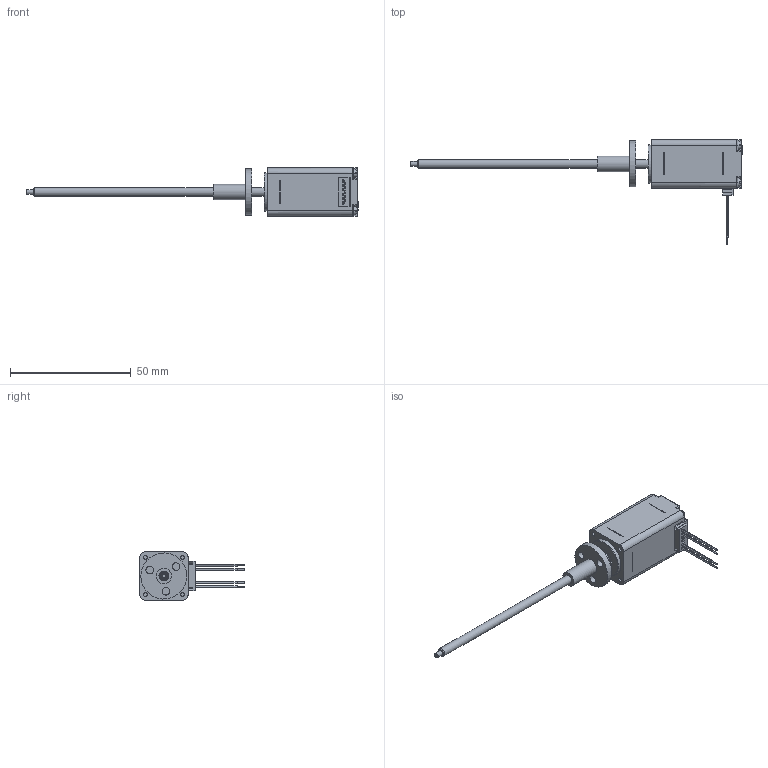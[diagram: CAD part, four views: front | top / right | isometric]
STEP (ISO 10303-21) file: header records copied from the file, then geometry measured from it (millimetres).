
FILE_DESCRIPTION( ('This file contains a STEP AP42 implementation' ,'as created by ZW3D STEP Interface translator.' ,'') ,'2;1' );
FILE_NAME( '21EC4X-XX-XXX.stp' ,'251231.143356', (''), ('ZWCAD Software Co.'), 'Version 1.0', 'ZW3D to STEP translator', '' );
FILE_SCHEMA(('AUTOMOTIVE_DESIGN { 1 0 10303 214 1 1 1 1 }'));
Length unit declared in the file: millimetre
Products named in the file (1): 0
Bounding box: 137.35 x 43.25 x 20 mm (x, y, z)
Volume: 8648.3 mm3; surface area: 11902 mm2
Topology: 2 solids, 2 shells, 907 faces, 2570 edges, 1655 vertices
Faces by surface type: plane 564, cylinder 273, bspline 43, torus 12, sphere 8, cone 7
Full cylindrical faces by diameter (mm): 0.67 x8, 1.6 x4, 2 x1, 2.2 x4, 3.18 x3, 3.56 x2, 4.06 x2, 5.5 x2, 6.35 x1, 9 x2, 12.24 x2, 16 x1, 16.6 x1, 19.05 x1
Entity records: 31872 total; most frequent: CARTESIAN_POINT 6965, ORIENTED_EDGE 5126, DIRECTION 4922, EDGE_CURVE 2563, VECTOR 1694, LINE 1694, VERTEX_POINT 1655, AXIS2_PLACEMENT_3D 1614
